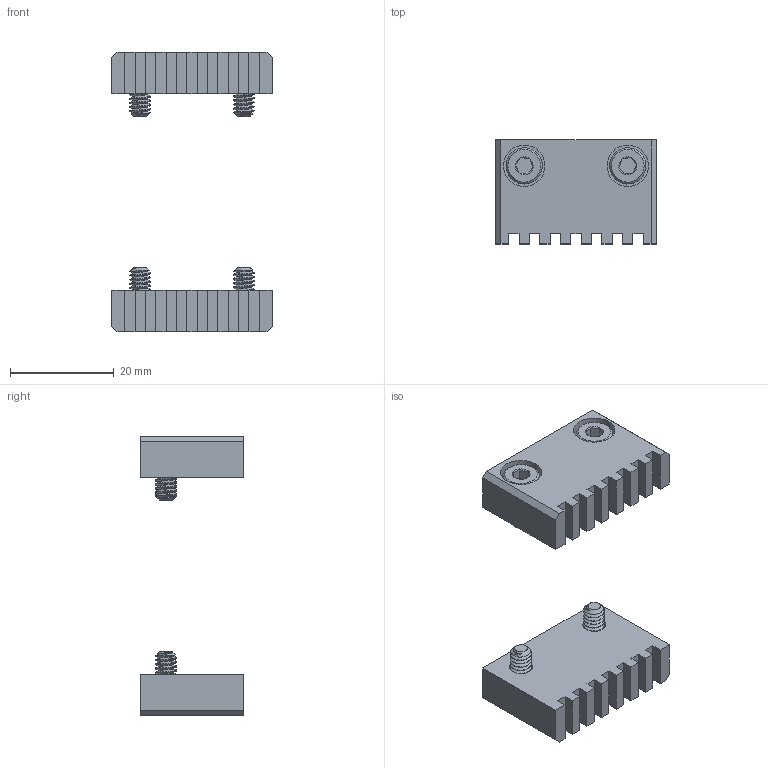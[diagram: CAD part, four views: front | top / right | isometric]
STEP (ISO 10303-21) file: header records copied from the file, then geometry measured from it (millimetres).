
FILE_DESCRIPTION (( 'STEP AP214' ), '1' );
FILE_NAME ('8800756_p.STEP', '2019-09-30T15:29:57', ( '' ), ( '' ), 'SwSTEP 2.0', 'SolidWorks 2018', '' );
FILE_SCHEMA (( 'AUTOMOTIVE_DESIGN' ));
Length unit declared in the file: millimetre
Products named in the file (1): 8800756_p
Bounding box: 31 x 20 x 54 mm (x, y, z)
Surface area: 6210.7 mm2 (no closed solid volume)
Topology: 0 solids, 6 shells, 364 faces, 952 edges, 612 vertices
Faces by surface type: cylinder 184, plane 116, cone 56, bspline 8
Entity records: 19420 total; most frequent: CARTESIAN_POINT 7441, ORIENTED_EDGE 1904, DIRECTION 1414, EDGE_CURVE 952, VERTEX_POINT 612, AXIS2_PLACEMENT_3D 477, LINE 460, VECTOR 460
